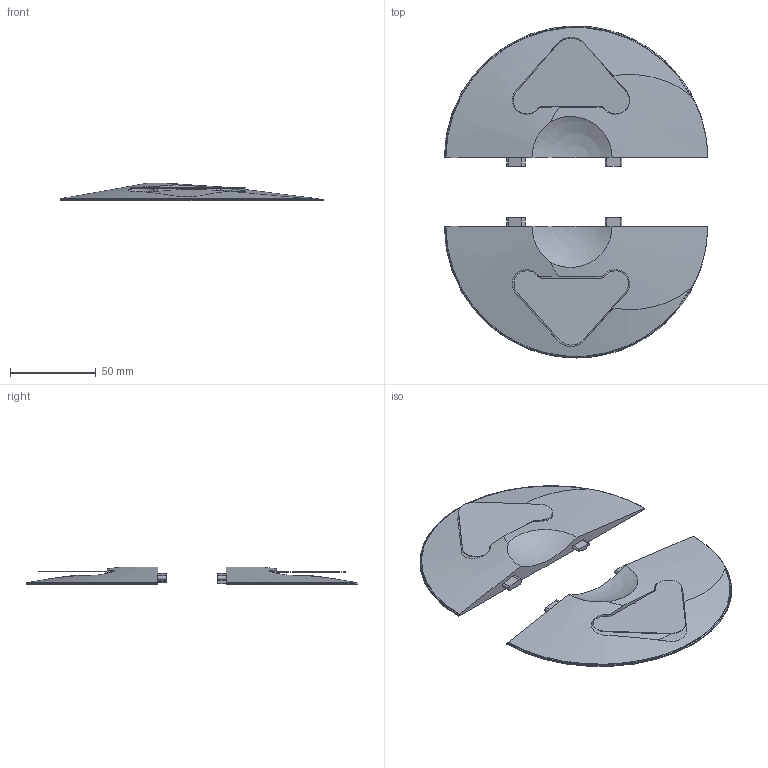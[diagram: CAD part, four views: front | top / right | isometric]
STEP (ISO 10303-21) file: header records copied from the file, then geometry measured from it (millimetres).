
FILE_DESCRIPTION(/* description */ ('STEP AP203'),/* implementation_level */ '2;1');
FILE_NAME(/* name */ '02084LHS01',/* time_stamp */ '2026-01-27T14:35:02+01:00',/* author */ ('License CC BY-ND 4.0'),/* organization */ ('CADENAS'),/* preprocessor_version */ 'ST-DEVELOPER v20',/* originating_system */ 'PARTsolutions',/* authorisation */ ' ');
FILE_SCHEMA (('CONFIG_CONTROL_DESIGN'));
Length unit declared in the file: millimetre
Products named in the file (3): 02084LHS01; 02084LHS01-1; 02084LHS01-2
Assembly tree (2 placements, depth 2):
  02084LHS01
    02084LHS01-1
    02084LHS01-2
Bounding box: 153.5 x 193.5 x 10.34 mm (x, y, z)
Volume: 80584.5 mm3; surface area: 47903 mm2
Topology: 2 solids, 2 shells, 104 faces, 282 edges, 188 vertices
Faces by surface type: plane 48, cylinder 38, torus 12, cone 6
Full cylindrical faces by diameter (mm): 0.657 x2
Entity records: 3487 total; most frequent: CARTESIAN_POINT 835, ORIENTED_EDGE 552, DIRECTION 532, EDGE_CURVE 276, AXIS2_PLACEMENT_3D 197, VERTEX_POINT 186, LINE 138, VECTOR 138
